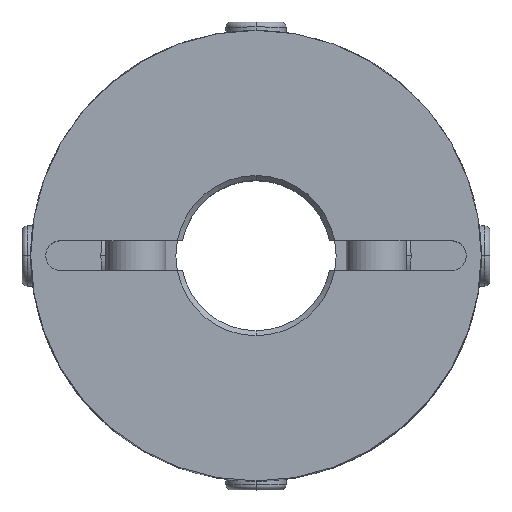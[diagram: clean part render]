
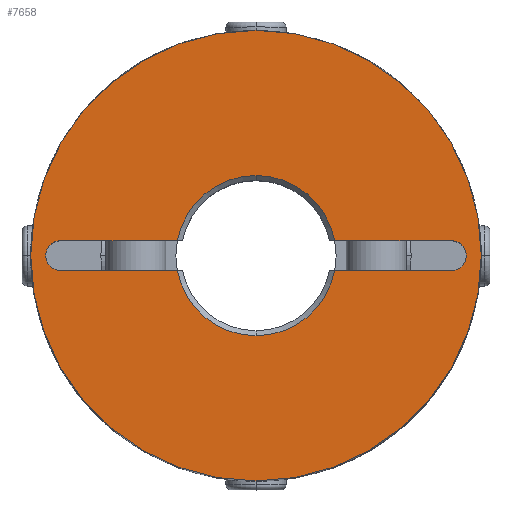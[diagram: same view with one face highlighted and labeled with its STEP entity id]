
A CAD part, top view. The second image highlights one B-rep face of the part: STEP entity #7658.
In plain terms, the highlighted planar face has unit normal (0, 0, 1).
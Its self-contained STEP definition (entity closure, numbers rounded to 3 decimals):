
#979=CARTESIAN_POINT('',(0.,22.5,22.5));
#980=VERTEX_POINT('',#979);
#987=CARTESIAN_POINT('',(0.,-22.5,22.5));
#988=VERTEX_POINT('',#987);
#989=CARTESIAN_POINT('',(0.0,0.0,22.5));
#990=DIRECTION('',(0.0,0.0,-1.0));
#991=DIRECTION('',(0.0,-1.0,0.0));
#992=AXIS2_PLACEMENT_3D('',#989,#990,#991);
#993=CIRCLE('',#992,22.5);
#994=EDGE_CURVE('',#980,#988,#993,.T.);
#1309=CARTESIAN_POINT('',(20.561,1.061,22.5));
#1310=VERTEX_POINT('',#1309);
#1326=CARTESIAN_POINT('',(19.5,-1.5,22.5));
#1327=VERTEX_POINT('',#1326);
#1334=CARTESIAN_POINT('',(19.5,0.,22.5));
#1335=DIRECTION('',(0.0,0.0,1.0));
#1336=DIRECTION('',(0.707,-0.707,0.0));
#1337=AXIS2_PLACEMENT_3D('',#1334,#1335,#1336);
#1338=CIRCLE('',#1337,1.5);
#1339=EDGE_CURVE('',#1327,#1310,#1338,.T.);
#1351=CARTESIAN_POINT('',(-20.561,-1.061,22.5));
#1352=VERTEX_POINT('',#1351);
#1368=CARTESIAN_POINT('',(-19.5,1.5,22.5));
#1369=VERTEX_POINT('',#1368);
#1376=CARTESIAN_POINT('',(-19.5,0.,22.5));
#1377=DIRECTION('',(0.0,0.0,1.0));
#1378=DIRECTION('',(-0.707,0.707,0.0));
#1379=AXIS2_PLACEMENT_3D('',#1376,#1377,#1378);
#1380=CIRCLE('',#1379,1.5);
#1381=EDGE_CURVE('',#1369,#1352,#1380,.T.);
#2105=CARTESIAN_POINT('',(0.,8.0,22.5));
#2106=VERTEX_POINT('',#2105);
#2114=CARTESIAN_POINT('',(7.858,1.5,22.5));
#2115=VERTEX_POINT('',#2114);
#2129=CARTESIAN_POINT('',(0.0,0.0,22.5));
#2130=DIRECTION('',(0.0,0.0,1.0));
#2131=DIRECTION('',(0.0,1.0,0.0));
#2132=AXIS2_PLACEMENT_3D('',#2129,#2130,#2131);
#2133=CIRCLE('',#2132,8.0);
#2134=EDGE_CURVE('',#2115,#2106,#2133,.T.);
#2144=CARTESIAN_POINT('',(0.,-8.0,22.5));
#2145=VERTEX_POINT('',#2144);
#2161=CARTESIAN_POINT('',(-7.858,-1.5,22.5));
#2162=VERTEX_POINT('',#2161);
#2176=CARTESIAN_POINT('',(0.0,0.0,22.5));
#2177=DIRECTION('',(0.0,0.0,1.0));
#2178=DIRECTION('',(0.0,-1.0,0.0));
#2179=AXIS2_PLACEMENT_3D('',#2176,#2177,#2178);
#2180=CIRCLE('',#2179,8.0);
#2181=EDGE_CURVE('',#2162,#2145,#2180,.T.);
#7396=CARTESIAN_POINT('',(19.5,1.5,22.5));
#7397=VERTEX_POINT('',#7396);
#7404=CARTESIAN_POINT('',(7.858,1.5,22.5));
#7405=DIRECTION('',(1.0,0.0,0.0));
#7406=VECTOR('',#7405,11.642);
#7407=LINE('',#7404,#7406);
#7408=EDGE_CURVE('',#2115,#7397,#7407,.T.);
#7543=CARTESIAN_POINT('',(7.858,-1.5,22.5));
#7544=VERTEX_POINT('',#7543);
#7558=CARTESIAN_POINT('',(19.5,-1.5,22.5));
#7559=DIRECTION('',(-1.0,0.0,0.0));
#7560=VECTOR('',#7559,11.642);
#7561=LINE('',#7558,#7560);
#7562=EDGE_CURVE('',#1327,#7544,#7561,.T.);
#7585=CARTESIAN_POINT('',(0.0,0.0,22.5));
#7586=DIRECTION('',(0.0,0.0,1.0));
#7587=DIRECTION('',(0.0,-1.0,0.0));
#7588=AXIS2_PLACEMENT_3D('',#7585,#7586,#7587);
#7589=CIRCLE('',#7588,8.0);
#7590=EDGE_CURVE('',#2145,#7544,#7589,.T.);
#7597=CARTESIAN_POINT('',(0.,-2.045,22.5));
#7598=DIRECTION('',(0.0,0.0,1.0));
#7599=DIRECTION('',(0.0,-1.0,0.0));
#7600=AXIS2_PLACEMENT_3D('',#7597,#7598,#7599);
#7601=PLANE('',#7600);
#7602=CARTESIAN_POINT('',(0.0,0.0,22.5));
#7603=DIRECTION('',(0.0,0.0,-1.0));
#7604=DIRECTION('',(0.0,-1.0,0.0));
#7605=AXIS2_PLACEMENT_3D('',#7602,#7603,#7604);
#7606=CIRCLE('',#7605,22.5);
#7607=EDGE_CURVE('',#988,#980,#7606,.T.);
#7608=ORIENTED_EDGE('',*,*,#7607,.F.);
#7609=ORIENTED_EDGE('',*,*,#994,.F.);
#7610=EDGE_LOOP('',(#7608,#7609));
#7611=FACE_OUTER_BOUND('',#7610,.T.);
#7612=ORIENTED_EDGE('',*,*,#2181,.F.);
#7613=CARTESIAN_POINT('',(-19.5,-1.5,22.5));
#7614=VERTEX_POINT('',#7613);
#7615=CARTESIAN_POINT('',(-7.858,-1.5,22.5));
#7616=DIRECTION('',(-1.0,0.0,0.0));
#7617=VECTOR('',#7616,11.642);
#7618=LINE('',#7615,#7617);
#7619=EDGE_CURVE('',#2162,#7614,#7618,.T.);
#7620=ORIENTED_EDGE('',*,*,#7619,.T.);
#7621=CARTESIAN_POINT('',(-19.5,0.,22.5));
#7622=DIRECTION('',(0.0,0.0,1.0));
#7623=DIRECTION('',(-0.707,0.707,0.0));
#7624=AXIS2_PLACEMENT_3D('',#7621,#7622,#7623);
#7625=CIRCLE('',#7624,1.5);
#7626=EDGE_CURVE('',#1352,#7614,#7625,.T.);
#7627=ORIENTED_EDGE('',*,*,#7626,.F.);
#7628=ORIENTED_EDGE('',*,*,#1381,.F.);
#7629=CARTESIAN_POINT('',(-7.858,1.5,22.5));
#7630=VERTEX_POINT('',#7629);
#7631=CARTESIAN_POINT('',(-19.5,1.5,22.5));
#7632=DIRECTION('',(1.0,0.0,0.0));
#7633=VECTOR('',#7632,11.642);
#7634=LINE('',#7631,#7633);
#7635=EDGE_CURVE('',#1369,#7630,#7634,.T.);
#7636=ORIENTED_EDGE('',*,*,#7635,.T.);
#7637=CARTESIAN_POINT('',(0.0,0.0,22.5));
#7638=DIRECTION('',(0.0,0.0,1.0));
#7639=DIRECTION('',(0.0,1.0,0.0));
#7640=AXIS2_PLACEMENT_3D('',#7637,#7638,#7639);
#7641=CIRCLE('',#7640,8.0);
#7642=EDGE_CURVE('',#2106,#7630,#7641,.T.);
#7643=ORIENTED_EDGE('',*,*,#7642,.F.);
#7644=ORIENTED_EDGE('',*,*,#2134,.F.);
#7645=ORIENTED_EDGE('',*,*,#7408,.T.);
#7646=CARTESIAN_POINT('',(19.5,0.,22.5));
#7647=DIRECTION('',(0.0,0.0,1.0));
#7648=DIRECTION('',(0.707,-0.707,0.0));
#7649=AXIS2_PLACEMENT_3D('',#7646,#7647,#7648);
#7650=CIRCLE('',#7649,1.5);
#7651=EDGE_CURVE('',#1310,#7397,#7650,.T.);
#7652=ORIENTED_EDGE('',*,*,#7651,.F.);
#7653=ORIENTED_EDGE('',*,*,#1339,.F.);
#7654=ORIENTED_EDGE('',*,*,#7562,.T.);
#7655=ORIENTED_EDGE('',*,*,#7590,.F.);
#7656=EDGE_LOOP('',(#7612,#7620,#7627,#7628,#7636,#7643,#7644,#7645,#7652,#7653,#7654,#7655));
#7657=FACE_BOUND('',#7656,.T.);
#7658=ADVANCED_FACE('',(#7611,#7657),#7601,.T.);
